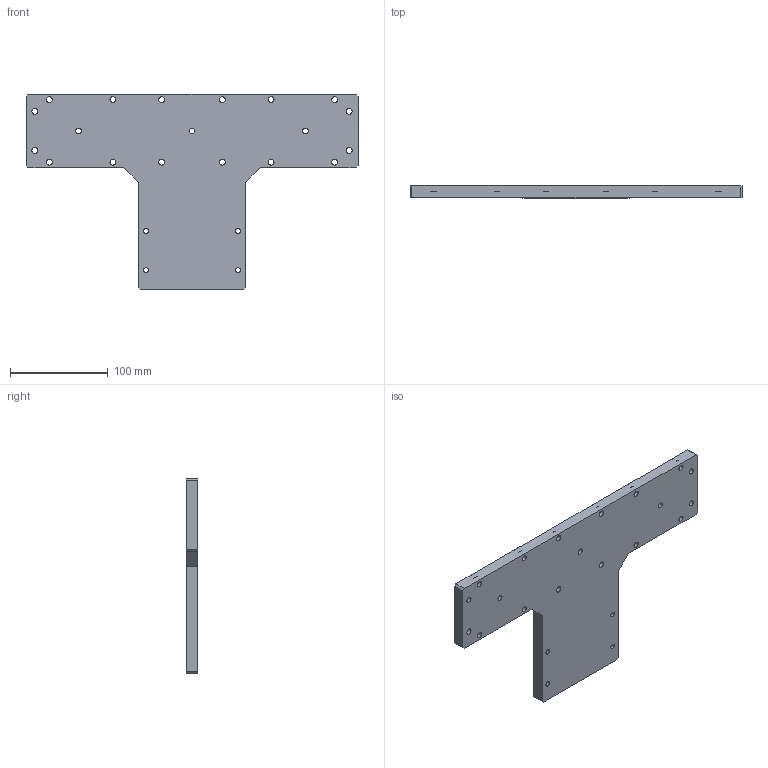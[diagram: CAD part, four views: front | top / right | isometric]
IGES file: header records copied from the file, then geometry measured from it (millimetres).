
Start section:  PTC IGES file: k80-k80m-ft.igs
Global section: file name: k80-k80m-ft.igs; native system: Pro/ENGINEER by Parametric Technology Corporation; preprocessor: 2008230; author: Owner; organization: Unknown; date: 20121212.110933; units: millimetre
Bounding box: 340 x 12 x 200 mm (x, y, z)
Surface area: 97201.6 mm2 (no closed solid volume)
Topology: 0 solids, 0 shells, 121 faces, 640 edges, 636 vertices
Faces by surface type: revolution 84, bspline 37
